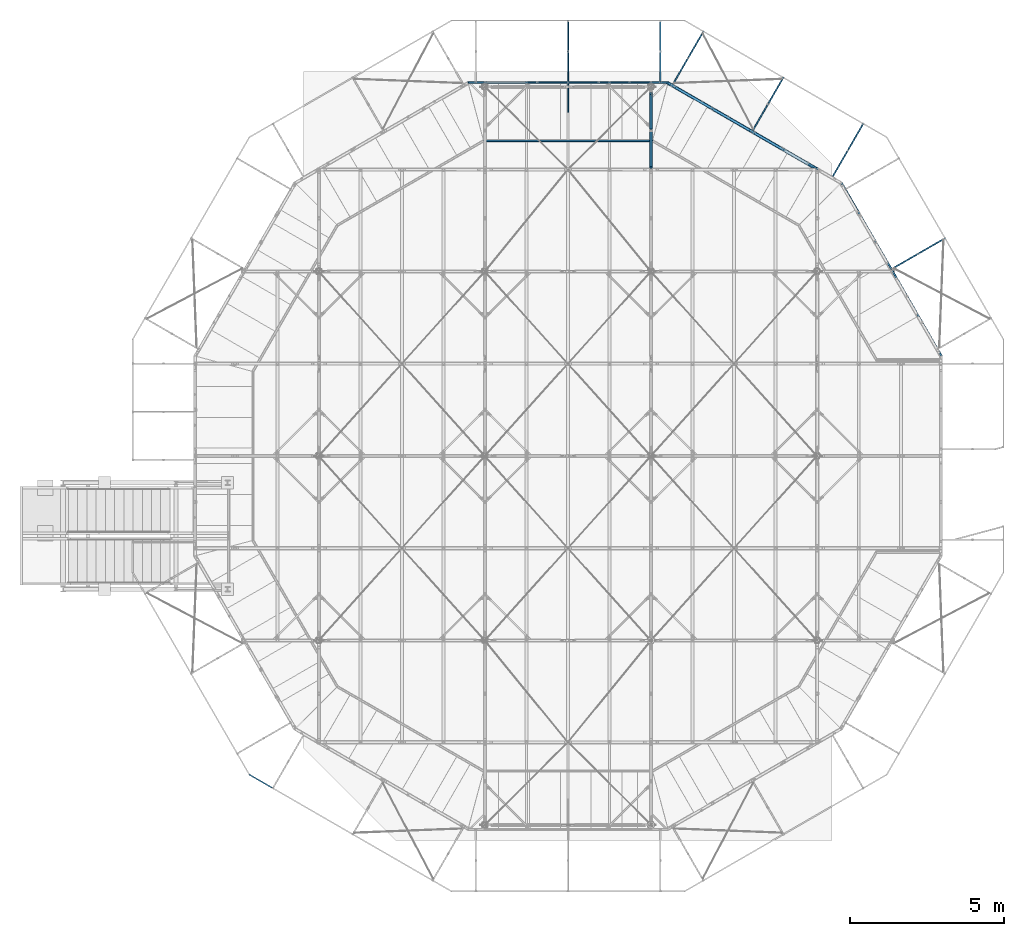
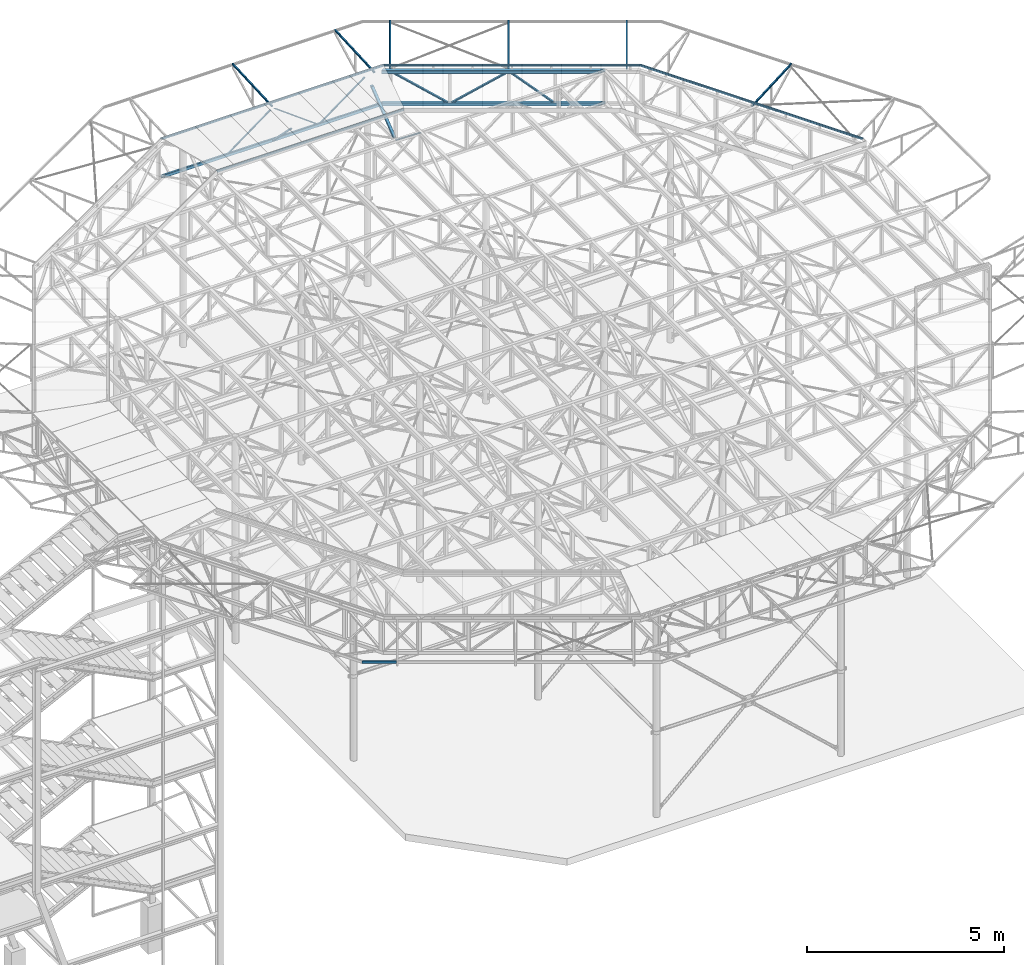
# One storey, part 60 of 132: 23 discrete accessories, 10 elements without a shape of their own.
"""IFC2X3 building model written with IfcOpenShell, lengths in millimetres."""

from ifc_helpers import new_model, si_unit, frame, origin_with_axes, origin_2d_with_axis, place, context, subcontext, project, spatial, hollow_rectangle, l_section, u_section, extrude, boolean, clip, halfspace, material, type_object, element, aggregate, save


model = new_model("IFC2X3")

# Units and contexts
model_context = context("Model", 3, precision=1e-05, world=origin_with_axes())
body_context = subcontext(model_context, "Body", "Model", "MODEL_VIEW")
ifc_project = project(units=[si_unit("LENGTHUNIT", "METRE", prefix="MILLI"), si_unit("AREAUNIT", "SQUARE_METRE"), si_unit("VOLUMEUNIT", "CUBIC_METRE"), si_unit("MASSUNIT", "GRAM", prefix="KILO"), si_unit("TIMEUNIT", "SECOND"), si_unit("PLANEANGLEUNIT", "RADIAN"), si_unit("SOLIDANGLEUNIT", "STERADIAN"), si_unit("THERMODYNAMICTEMPERATUREUNIT", "DEGREE_CELSIUS"), si_unit("LUMINOUSINTENSITYUNIT", "LUMEN")], contexts=[model_context])

# Site, building, storey
site_placement = place(None, origin_with_axes())
site = spatial("IfcSite", under=ifc_project, at=site_placement, Name="Budowa", CompositionType="ELEMENT")
building_placement = place(site_placement, origin_with_axes())
building = spatial("IfcBuilding", under=site, at=building_placement, Name="Undefined", CompositionType="ELEMENT")
storey_placement = place(building_placement, origin_with_axes())
storey = spatial("IfcBuildingStorey", under=building, at=storey_placement, Name="Undefined", CompositionType="ELEMENT", Elevation=0.0)

# Assembly, discrete accessories
assembly_1_placement = place(storey_placement, origin_with_axes())
assembly_1 = element("IfcElementAssembly", 1, at=assembly_1_placement, inside=storey, Name="Steel Assembly", AssemblyPlace="NOTDEFINED", PredefinedType="RIGID_FRAME")
ifc_material = material(Name="STEEL/S235")
discrete_accessory_type = type_object("IfcDiscreteAccessoryType", Name="BEAM")
discrete_accessory_1_placement = place(assembly_1_placement, frame((15386.9999997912, 24144.9671450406, 14004.0), z_axis=(0.0, -1.0, 0.0), x_axis=(-1.0, 0.0, 0.0)))
discrete_accessory_1 = element("IfcDiscreteAccessory", 2, at=discrete_accessory_1_placement, type_object=discrete_accessory_type, material=ifc_material, Name="BEAM", ObjectType="L60*40*6", context=body_context, shape_type="Clipping", body=[
    clip(clip(extrude(l_section(Depth=60.0, Width=40.0, Thickness=6.0, FilletRadius=6.0, EdgeRadius=3.0, at=origin_2d_with_axis()), frame((6532.08210864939, 0.0, 0.0), z_axis=(-1.0, 0.0, 0.0), x_axis=(0.0, -1.0, 0.0)), (0.0, 0.0, 1.0), 6540.16), halfspace(frame((6507.80785831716, 0.0, 30.0000000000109), z_axis=(-0.965930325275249, 0.0, -0.258802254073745), x_axis=(0.0, -1.0, 0.0)), True)), halfspace(frame((16.1916296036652, 0.0, 30.0), z_axis=(-0.965932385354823, 0.0, 0.258794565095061), x_axis=(0.0, -1.0, 0.0)), False)),
])
discrete_accessory_2_placement = place(assembly_1_placement, frame((21022.7207687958, 20886.8559733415, 14004.0), z_axis=(-0.499956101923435, -0.866050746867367, 0.0), x_axis=(-0.866050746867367, 0.499956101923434, 0.0)))
discrete_accessory_2 = element("IfcDiscreteAccessory", 3, at=discrete_accessory_2_placement, type_object=discrete_accessory_type, material=ifc_material, Name="BEAM", ObjectType="L60*40*6", context=body_context, shape_type="Clipping", body=[
    clip(clip(extrude(l_section(Depth=60.0, Width=40.0, Thickness=6.0, FilletRadius=6.0, EdgeRadius=3.0, at=origin_2d_with_axis()), frame((6569.27350745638, 0.0, 0.0), z_axis=(-1.0, 0.0, 0.0), x_axis=(0.0, -1.0, 0.0)), (0.0, 0.0, 1.0), 6613.59), halfspace(frame((6508.75683202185, 0.0, 30.0000000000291), z_axis=(-0.965932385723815, 0.0, -0.258794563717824), x_axis=(0.0, -1.0, 0.0)), True)), halfspace(frame((16.1990101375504, 0.0, 30.0000000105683), z_axis=(-0.965917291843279, 0.0, 0.258850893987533), x_axis=(0.0, -1.0, 0.0)), False)),
])
discrete_accessory_3_placement = place(assembly_1_placement, frame((24274.0193661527, 15247.0825774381, 14004.0), z_axis=(-0.866033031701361, -0.499986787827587, 0.0), x_axis=(-0.499986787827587, 0.866033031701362, 0.0)))
discrete_accessory_3 = element("IfcDiscreteAccessory", 4, at=discrete_accessory_3_placement, type_object=discrete_accessory_type, material=ifc_material, Name="BEAM", ObjectType="L60*40*6", context=body_context, shape_type="Clipping", body=[
    clip(clip(extrude(l_section(Depth=60.0, Width=40.0, Thickness=6.0, FilletRadius=6.0, EdgeRadius=3.0, at=origin_2d_with_axis()), frame((6569.3833111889, 3.63797880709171e-12, 0.0), z_axis=(-1.0, 0.0, 0.0), x_axis=(0.0, -1.0, 0.0)), (0.0, 0.0, 1.0), 6613.83), halfspace(frame((6508.86290101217, 3.63797880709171e-12, 30.0000000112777), z_axis=(-0.965917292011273, 0.0, -0.258850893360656), x_axis=(0.0, -1.0, 0.0)), True)), halfspace(frame((16.0764609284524, 3.63797880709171e-12, 29.9999999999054), z_axis=(-0.965927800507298, 0.0, 0.258811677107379), x_axis=(0.0, -1.0, 0.0)), False)),
])
discrete_accessory_4_placement = place(assembly_1_placement, frame((14862.905108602, 22243.0012210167, 13965.0), z_axis=(0.0, 1.0, 0.0), x_axis=(-1.0, 0.0, 0.0)))
discrete_accessory_4 = element("IfcDiscreteAccessory", 5, at=discrete_accessory_4_placement, type_object=discrete_accessory_type, material=ifc_material, Name="BEAM", ObjectType="L50*6", context=body_context, shape_type="Clipping", body=[
    clip(clip(extrude(l_section(Depth=50.0, Width=50.0, Thickness=6.0, FilletRadius=7.0, EdgeRadius=3.5, at=origin_2d_with_axis()), frame((5496.0396283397, 0.0, 0.0), z_axis=(-1.0, 0.0, 0.0), x_axis=(0.0, -1.0, 0.0)), (0.0, 0.0, 1.0), 5516.27), halfspace(frame((5475.80945900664, 0.0, -25.0), z_axis=(-0.965925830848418, 0.0, 0.258819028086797), x_axis=(0.0, 1.0, 0.0)), True)), halfspace(frame((3.51101334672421e-08, 0.0, -24.9999999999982), z_axis=(-0.965925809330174, 0.0, -0.258819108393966), x_axis=(0.0, 1.0, 0.0)), False)),
])
aggregate(assembly_1, [discrete_accessory_1, discrete_accessory_2, discrete_accessory_3, discrete_accessory_4])

# Assembly, discrete accessory
assembly_2_placement = place(storey_placement, origin_with_axes())
assembly_2 = element("IfcElementAssembly", 6, at=assembly_2_placement, inside=storey, Name="Steel Assembly", AssemblyPlace="NOTDEFINED", PredefinedType="RIGID_FRAME")
discrete_accessory_5_placement = place(assembly_2_placement, frame((12124.7999998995, 23212.3223305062, 13742.3223304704), z_axis=(-1.0, 0.0, 0.0), x_axis=(0.0, 0.707106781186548, -0.707106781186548)))
discrete_accessory_5 = element("IfcDiscreteAccessory", 7, at=discrete_accessory_5_placement, type_object=discrete_accessory_type, material=ifc_material, Name="BEAM", ObjectType="SHS50*5", context=body_context, shape_type="Clipping", body=[
    clip(clip(extrude(hollow_rectangle(XDim=50.0, YDim=50.0, WallThickness=5.0, InnerFilletRadius=5.0, OuterFilletRadius=10.0, at=origin_2d_with_axis()), frame((1327.07900269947, -3.63797880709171e-12, 0.0), z_axis=(-1.0, 0.0, 0.0), x_axis=(0.0, -1.0, 0.0)), (0.0, 0.0, 1.0), 1402.58), halfspace(frame((1248.0434687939, -28.5355339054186, 196.150089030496), z_axis=(0.707106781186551, -0.707106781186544, 0.0), x_axis=(0.707106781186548, 0.707106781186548, 0.0)), False)), halfspace(frame((-67.426406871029, 42.4264068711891, 1000.0), z_axis=(0.707106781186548, 0.707106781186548, 0.0), x_axis=(-0.707106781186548, 0.707106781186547, 0.0)), True)),
])
aggregate(assembly_2, [discrete_accessory_5])

assembly_3_placement = place(storey_placement, origin_with_axes())
assembly_3 = element("IfcElementAssembly", 8, at=assembly_3_placement, inside=storey, Name="Steel Assembly", AssemblyPlace="NOTDEFINED", PredefinedType="RIGID_FRAME")
discrete_accessory_6_placement = place(assembly_3_placement, frame((1682.6905521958, 1683.94365952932, 13945.0050192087), z_axis=(0.0, 0.0, -1.0), x_axis=(0.866042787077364, -0.499969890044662, 0.0)))
discrete_accessory_6 = element("IfcDiscreteAccessory", 9, at=discrete_accessory_6_placement, type_object=discrete_accessory_type, material=ifc_material, Name="BEAM", ObjectType="C70*40*4", context=body_context, shape_type="Clipping", body=[
    clip(extrude(u_section(Depth=70.0, FlangeWidth=40.0, WebThickness=4.0, FlangeThickness=4.0, FilletRadius=6.0, at=origin_2d_with_axis()), frame((950.000000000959, 1.82248795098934e-14, 0.0), z_axis=(-1.0, 0.0, 0.0), x_axis=(0.0, -1.0, 0.0)), (0.0, 0.0, 1.0), 895.39), halfspace(frame((86.9462005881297, 20.0006923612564, -0.000395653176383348), z_axis=(-0.965920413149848, -0.258839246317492, 5.120602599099e-06), x_axis=(3.20991830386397e-10, 1.97817472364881e-05, 0.999999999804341)), False)),
])
aggregate(assembly_3, [discrete_accessory_6])

assembly_4_placement = place(storey_placement, origin_with_axes())
assembly_4 = element("IfcElementAssembly", 10, at=assembly_4_placement, inside=storey, Name="Steel Assembly", AssemblyPlace="NOTDEFINED", PredefinedType="RIGID_FRAME")
discrete_accessory_7_placement = place(assembly_4_placement, frame((22669.1585802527, 18089.3855184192, 13855.0311915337), z_axis=(-0.499969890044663, 0.866042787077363, 0.0), x_axis=(0.864962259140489, 0.499346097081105, 0.0499376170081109)))
discrete_accessory_7 = element("IfcDiscreteAccessory", 11, at=discrete_accessory_7_placement, type_object=discrete_accessory_type, material=ifc_material, Name="BEAM", ObjectType="SHS50*4", context=body_context, shape_type="Clipping", body=[
    clip(clip(extrude(hollow_rectangle(XDim=50.0, YDim=50.0, WallThickness=4.0, InnerFilletRadius=4.0, OuterFilletRadius=8.0, at=origin_2d_with_axis()), frame((2047.80222226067, -1.81898940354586e-12, -1.00153404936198e-12), z_axis=(-1.0, 0.0, 0.0), x_axis=(0.0, -1.0, 0.0)), (0.0, 0.0, 1.0), 2120.54), halfspace(frame((2002.5989463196, -25.0000000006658, -7.85761585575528e-07), z_axis=(-0.689225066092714, -0.724547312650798, 2.88487317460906e-10), x_axis=(0.0, 0.0, -1.0)), True)), halfspace(frame((-1.23691279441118e-08, -25.0000000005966, 73.1665326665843), z_axis=(-0.998752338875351, -0.0499376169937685, 0.0), x_axis=(0.0, 0.0, -1.0)), False)),
])
aggregate(assembly_4, [discrete_accessory_7])

assembly_5_placement = place(storey_placement, origin_with_axes())
assembly_5 = element("IfcElementAssembly", 12, at=assembly_5_placement, inside=storey, Name="Steel Assembly", AssemblyPlace="NOTDEFINED", PredefinedType="RIGID_FRAME")
discrete_accessory_8_placement = place(assembly_5_placement, frame((20733.5513428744, 21089.7565331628, 13855.0311915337), z_axis=(0.866042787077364, -0.499969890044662, 0.0), x_axis=(0.499346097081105, 0.86496225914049, 0.0499376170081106)))
discrete_accessory_8 = element("IfcDiscreteAccessory", 13, at=discrete_accessory_8_placement, type_object=discrete_accessory_type, material=ifc_material, Name="BEAM", ObjectType="SHS50*4", context=body_context, shape_type="Clipping", body=[
    clip(clip(extrude(hollow_rectangle(XDim=50.0, YDim=50.0, WallThickness=4.0, InnerFilletRadius=4.0, OuterFilletRadius=8.0, at=origin_2d_with_axis()), frame((2047.80222226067, -1.81898940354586e-12, -1.00153404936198e-12), z_axis=(-1.0, 0.0, 0.0), x_axis=(0.0, -1.0, 0.0)), (0.0, 0.0, 1.0), 2120.54), halfspace(frame((2002.59894631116, 25.0000000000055, -2.91038304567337e-11), z_axis=(-0.689225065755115, 0.724547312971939, 0.0), x_axis=(0.0, 0.0, 1.0)), True)), halfspace(frame((-1.21290213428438e-08, 25.0000000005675, 73.1665326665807), z_axis=(-0.998752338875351, 0.0499376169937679, 0.0), x_axis=(-0.0499376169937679, -0.998752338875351, 0.0)), False)),
])
aggregate(assembly_5, [discrete_accessory_8])

assembly_6_placement = place(storey_placement, origin_with_axes())
assembly_6 = element("IfcElementAssembly", 14, at=assembly_6_placement, inside=storey, Name="Steel Assembly", AssemblyPlace="NOTDEFINED", PredefinedType="RIGID_FRAME")
discrete_accessory_9_placement = place(assembly_6_placement, frame((15537.2946203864, 24089.5758734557, 13855.0311915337), z_axis=(0.866042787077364, -0.499969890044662, 0.0), x_axis=(0.499346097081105, 0.86496225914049, 0.0499376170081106)))
discrete_accessory_9 = element("IfcDiscreteAccessory", 15, at=discrete_accessory_9_placement, type_object=discrete_accessory_type, material=ifc_material, Name="BEAM", ObjectType="SHS50*4", context=body_context, shape_type="Clipping", body=[
    clip(clip(extrude(hollow_rectangle(XDim=50.0, YDim=50.0, WallThickness=4.0, InnerFilletRadius=4.0, OuterFilletRadius=8.0, at=origin_2d_with_axis()), frame((2047.80222226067, -1.81898940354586e-12, -1.00153404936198e-12), z_axis=(-1.0, 0.0, 0.0), x_axis=(0.0, -1.0, 0.0)), (0.0, 0.0, 1.0), 2120.54), halfspace(frame((2002.59894631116, 25.0000000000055, -2.91038304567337e-11), z_axis=(-0.689225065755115, 0.724547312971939, 0.0), x_axis=(0.0, 0.0, 1.0)), True)), halfspace(frame((-1.21290213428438e-08, 25.0000000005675, 73.1665326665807), z_axis=(-0.998752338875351, 0.0499376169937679, 0.0), x_axis=(-0.0499376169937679, -0.998752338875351, 0.0)), False)),
])
aggregate(assembly_6, [discrete_accessory_9])

assembly_7_placement = place(storey_placement, origin_with_axes())
assembly_7 = element("IfcElementAssembly", 16, at=assembly_7_placement, inside=storey, Name="Steel Assembly", AssemblyPlace="NOTDEFINED", PredefinedType="RIGID_FRAME")
discrete_accessory_10_placement = place(assembly_7_placement, frame((18135.4229816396, 22589.6662032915, 13855.0311915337), z_axis=(0.866042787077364, -0.499969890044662, 0.0), x_axis=(0.499346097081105, 0.86496225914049, 0.0499376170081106)))
discrete_accessory_10 = element("IfcDiscreteAccessory", 17, at=discrete_accessory_10_placement, type_object=discrete_accessory_type, material=ifc_material, Name="BEAM", ObjectType="SHS50*4", context=body_context, shape_type="Clipping", body=[
    clip(clip(extrude(hollow_rectangle(XDim=50.0, YDim=50.0, WallThickness=4.0, InnerFilletRadius=4.0, OuterFilletRadius=8.0, at=origin_2d_with_axis()), frame((2047.80222226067, -1.81898940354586e-12, -1.00153404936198e-12), z_axis=(-1.0, 0.0, 0.0), x_axis=(0.0, -1.0, 0.0)), (0.0, 0.0, 1.0), 2120.54), halfspace(frame((2002.59894631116, 25.0000000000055, -2.91038304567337e-11), z_axis=(-0.689225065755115, 0.724547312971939, 0.0), x_axis=(0.0, 0.0, 1.0)), True)), halfspace(frame((-1.21290213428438e-08, 25.0000000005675, 73.1665326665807), z_axis=(-0.998752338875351, 0.0499376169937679, 0.0), x_axis=(-0.0499376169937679, -0.998752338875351, 0.0)), False)),
])
aggregate(assembly_7, [discrete_accessory_10])

assembly_8_placement = place(storey_placement, origin_with_axes())
assembly_8 = element("IfcElementAssembly", 18, at=assembly_8_placement, inside=storey, Name="Steel Assembly", AssemblyPlace="NOTDEFINED", PredefinedType="RIGID_FRAME")
discrete_accessory_11_placement = place(assembly_8_placement, frame((15124.9999999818, 24176.1484404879, 13855.0311915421), z_axis=(1.0, 0.0, 0.0), x_axis=(0.0, 0.998752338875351, 0.0499376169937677)))
discrete_accessory_11 = element("IfcDiscreteAccessory", 19, at=discrete_accessory_11_placement, type_object=discrete_accessory_type, material=ifc_material, Name="BEAM", ObjectType="SHS50*4", context=body_context, shape_type="Clipping", body=[
    clip(clip(extrude(hollow_rectangle(XDim=50.0, YDim=50.0, WallThickness=4.0, InnerFilletRadius=4.0, OuterFilletRadius=8.0, at=origin_2d_with_axis()), frame((2004.12425861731, -3.63797880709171e-12, 0.0), z_axis=(-1.0, 0.0, 0.0), x_axis=(0.0, -1.0, 0.0)), (0.0, 0.0, 1.0), 2033.18), halfspace(frame((2002.59894631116, 25.0000000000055, -2.91038304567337e-11), z_axis=(-0.689225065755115, 0.724547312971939, 0.0), x_axis=(0.0, 0.0, 1.0)), True)), halfspace(frame((-1.21290213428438e-08, 25.0000000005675, 73.1665326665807), z_axis=(-0.998752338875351, 0.0499376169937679, 0.0), x_axis=(-0.0499376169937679, -0.998752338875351, 0.0)), False)),
])
aggregate(assembly_8, [discrete_accessory_11])

assembly_9_placement = place(storey_placement, origin_with_axes())
assembly_9 = element("IfcElementAssembly", 20, at=assembly_9_placement, inside=storey, Name="Steel Assembly", AssemblyPlace="NOTDEFINED", PredefinedType="RIGID_FRAME")
discrete_accessory_12_placement = place(assembly_9_placement, frame((12124.9999999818, 24176.1484404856, 13855.0311915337), z_axis=(1.0, 0.0, 0.0), x_axis=(0.0, 0.998752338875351, 0.0499376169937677)))
discrete_accessory_12 = element("IfcDiscreteAccessory", 21, at=discrete_accessory_12_placement, type_object=discrete_accessory_type, material=ifc_material, Name="BEAM", ObjectType="SHS50*4", context=body_context, shape_type="Clipping", body=[
    clip(clip(extrude(hollow_rectangle(XDim=50.0, YDim=50.0, WallThickness=4.0, InnerFilletRadius=4.0, OuterFilletRadius=8.0, at=origin_2d_with_axis()), frame((2004.12425861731, -3.63797880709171e-12, 0.0), z_axis=(-1.0, 0.0, 0.0), x_axis=(0.0, -1.0, 0.0)), (0.0, 0.0, 1.0), 2033.18), halfspace(frame((2002.59894631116, 25.0000000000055, -2.91038304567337e-11), z_axis=(-0.689225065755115, 0.724547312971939, 0.0), x_axis=(0.0, 0.0, 1.0)), True)), halfspace(frame((-1.21290213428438e-08, 25.0000000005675, 73.1665326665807), z_axis=(-0.998752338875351, 0.0499376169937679, 0.0), x_axis=(-0.0499376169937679, -0.998752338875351, 0.0)), False)),
])
aggregate(assembly_9, [discrete_accessory_12])

# Assembly, discrete accessories
assembly_10_placement = place(storey_placement, origin_with_axes())
assembly_10 = element("IfcElementAssembly", 22, at=assembly_10_placement, inside=storey, Name="Steel Assembly", AssemblyPlace="NOTDEFINED", PredefinedType="RIGID_FRAME")
discrete_accessory_13_placement = place(assembly_10_placement, frame((18120.1928179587, 22539.2832223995, 13830.0000000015), z_axis=(0.499969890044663, 0.866042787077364, 0.0), x_axis=(0.660231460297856, -0.381154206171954, -0.64715986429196)))
solid_1 = boolean("DIFFERENCE", boolean("DIFFERENCE", extrude(hollow_rectangle(XDim=90.0, YDim=90.0, WallThickness=4.0, InnerFilletRadius=4.0, OuterFilletRadius=8.0, at=origin_2d_with_axis()), frame((32.3579932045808, 38.1177160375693, 1.45106249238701e-08), z_axis=(0.64715986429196, 0.762354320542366, 2.65512223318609e-10), x_axis=(-0.762354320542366, 0.647159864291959, -3.12772752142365e-10)), (0.0, 0.0, 1.0), 900.0), halfspace(frame((32.357992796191, 38.1177160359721, 1000.00000001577), z_axis=(0.64715986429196, 0.762354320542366, 2.65512223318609e-10), x_axis=(-0.762354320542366, 0.647159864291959, -3.12772752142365e-10)), True)), halfspace(frame((614.801870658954, 724.236604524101, 1000.00000025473), z_axis=(-0.647159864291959, -0.762354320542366, -2.655122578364e-10), x_axis=(0.762354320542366, -0.647159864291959, 3.12773408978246e-10)), True))
solid_2 = boolean("DIFFERENCE", boolean("DIFFERENCE", extrude(hollow_rectangle(XDim=90.0, YDim=90.0, WallThickness=4.0, InnerFilletRadius=4.0, OuterFilletRadius=8.0, at=origin_2d_with_axis()), frame((930.41138280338, -724.236604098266, 3.85326166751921e-07), z_axis=(0.64715986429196, 0.762354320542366, 2.65512223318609e-10), x_axis=(-0.762354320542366, 0.647159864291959, -3.12772752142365e-10)), (0.0, 0.0, 1.0), 900.0), halfspace(frame((930.411382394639, -724.236604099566, 1000.00000038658), z_axis=(0.64715986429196, 0.762354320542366, 2.65512223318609e-10), x_axis=(-0.762354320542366, 0.647159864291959, -3.12772752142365e-10)), True)), halfspace(frame((1512.8552602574, -38.1177156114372, 1000.00000062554), z_axis=(-0.647159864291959, -0.762354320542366, -2.655122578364e-10), x_axis=(0.762354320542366, -0.647159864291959, 3.12773408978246e-10)), True))
discrete_accessory_13 = element("IfcDiscreteAccessory", 23, at=discrete_accessory_13_placement, type_object=discrete_accessory_type, material=ifc_material, Name="BEAM", ObjectType="RHS80*40*4", context=body_context, shape_type="CSG", body=[
    boolean("DIFFERENCE", boolean("DIFFERENCE", boolean("DIFFERENCE", boolean("DIFFERENCE", extrude(hollow_rectangle(XDim=40.0, YDim=80.0, WallThickness=4.0, InnerFilletRadius=4.0, OuterFilletRadius=8.0, at=origin_2d_with_axis()), frame((1542.70146532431, -8.56371343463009e-14, -4.63483066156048e-14), z_axis=(-1.0, 0.0, 0.0), x_axis=(0.0, -1.0, 0.0)), (0.0, 0.0, 1.0), 1540.19), solid_1), solid_2), halfspace(frame((1512.8552602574, -38.1177156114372, 1000.00000062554), z_axis=(-0.647159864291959, -0.762354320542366, -2.655122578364e-10), x_axis=(0.762354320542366, -0.647159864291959, 3.12773408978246e-10)), True)), halfspace(frame((32.357992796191, 38.1177160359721, 1000.00000001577), z_axis=(0.64715986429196, 0.762354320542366, 2.65512223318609e-10), x_axis=(-0.762354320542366, 0.647159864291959, -3.12772752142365e-10)), True)),
])
discrete_accessory_14_placement = place(assembly_10_placement, frame((18120.0832816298, 22539.3464581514, 13830.0000000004), z_axis=(0.499969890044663, 0.866042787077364, 0.0), x_axis=(-0.720591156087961, 0.41600009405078, -0.554700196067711)))
solid_3 = boolean("DIFFERENCE", boolean("DIFFERENCE", extrude(hollow_rectangle(XDim=90.0, YDim=90.0, WallThickness=4.0, InnerFilletRadius=4.0, OuterFilletRadius=8.0, at=origin_2d_with_axis()), frame((1275.70521449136, 790.377621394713, 2.53192300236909e-07), z_axis=(0.554700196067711, -0.832050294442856, 1.11090858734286e-10), x_axis=(0.832050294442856, 0.554700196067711, 1.66635594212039e-10)), (0.0, 0.0, 1.0), 900.0), halfspace(frame((1275.70521428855, 790.377621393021, 1000.00000025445), z_axis=(0.554700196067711, -0.832050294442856, 1.11090858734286e-10), x_axis=(0.832050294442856, 0.554700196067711, 1.66635594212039e-10)), True)), halfspace(frame((1774.93539074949, 41.5323563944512, 1000.00000035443), z_axis=(-0.554700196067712, 0.832050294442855, -1.1109021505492e-10), x_axis=(-0.832050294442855, -0.554700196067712, -1.66634890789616e-10)), True))
solid_4 = boolean("DIFFERENCE", boolean("DIFFERENCE", extrude(hollow_rectangle(XDim=90.0, YDim=90.0, WallThickness=4.0, InnerFilletRadius=4.0, OuterFilletRadius=8.0, at=origin_2d_with_axis()), frame((27.6297728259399, -41.6726727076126, 6.27176466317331e-09), z_axis=(0.554700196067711, -0.832050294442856, 1.11090858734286e-10), x_axis=(0.832050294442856, 0.554700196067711, 1.66635594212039e-10)), (0.0, 0.0, 1.0), 900.0), halfspace(frame((27.6297726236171, -41.6726727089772, 1000.00000000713), z_axis=(0.554700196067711, -0.832050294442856, 1.11090858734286e-10), x_axis=(0.832050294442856, 0.554700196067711, 1.66635594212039e-10)), True)), halfspace(frame((526.859949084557, -790.517937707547, 1000.00000010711), z_axis=(-0.554700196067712, 0.832050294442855, -1.1109021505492e-10), x_axis=(-0.832050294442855, -0.554700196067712, -1.66634890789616e-10)), True))
discrete_accessory_14 = element("IfcDiscreteAccessory", 24, at=discrete_accessory_14_placement, type_object=discrete_accessory_type, material=ifc_material, Name="BEAM", ObjectType="RHS80*40*4", context=body_context, shape_type="CSG", body=[
    boolean("DIFFERENCE", boolean("DIFFERENCE", boolean("DIFFERENCE", boolean("DIFFERENCE", extrude(hollow_rectangle(XDim=40.0, YDim=80.0, WallThickness=4.0, InnerFilletRadius=4.0, OuterFilletRadius=8.0, at=origin_2d_with_axis()), frame((1821.2793628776, 0.0, -8.6431479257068e-13), z_axis=(-1.0, 0.0, 0.0), x_axis=(0.0, -1.0, 0.0)), (0.0, 0.0, 1.0), 1839.78), solid_3), solid_4), halfspace(frame((1775.04062824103, 41.6025147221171, 999.999999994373), z_axis=(-0.554700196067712, 0.832050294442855, -1.1109021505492e-10), x_axis=(-0.832050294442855, -0.554700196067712, -1.66634890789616e-10)), True)), halfspace(frame((27.7350096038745, -41.6025147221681, 1000.00000000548), z_axis=(0.554700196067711, -0.832050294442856, 1.11090858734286e-10), x_axis=(0.832050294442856, 0.554700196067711, 1.66635594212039e-10)), True)),
])
discrete_accessory_15_placement = place(assembly_10_placement, frame((15522.0644567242, 24039.1928925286, 13830.0000000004), z_axis=(0.499969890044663, 0.866042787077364, 0.0), x_axis=(0.720591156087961, -0.41600009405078, -0.554700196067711)))
solid_5 = boolean("DIFFERENCE", boolean("DIFFERENCE", extrude(hollow_rectangle(XDim=90.0, YDim=90.0, WallThickness=4.0, InnerFilletRadius=4.0, OuterFilletRadius=8.0, at=origin_2d_with_axis()), frame((27.7350097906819, 41.6025147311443, -4.89933715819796e-09), z_axis=(0.554700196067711, 0.832050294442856, -1.11090858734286e-10), x_axis=(-0.832050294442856, 0.554700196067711, 1.66634595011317e-10)), (0.0, 0.0, 1.0), 900.0), halfspace(frame((27.7350099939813, 41.6025147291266, 999.999999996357), z_axis=(0.554700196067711, 0.832050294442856, -1.11090858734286e-10), x_axis=(-0.832050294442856, 0.554700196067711, 1.66634595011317e-10)), True)), halfspace(frame((526.965186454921, 790.447779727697, 999.999999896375), z_axis=(-0.554700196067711, -0.832050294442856, 1.11091980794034e-10), x_axis=(0.832050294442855, -0.554700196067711, -1.66634436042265e-10)), True))
solid_6 = boolean("DIFFERENCE", boolean("DIFFERENCE", extrude(hollow_rectangle(XDim=90.0, YDim=90.0, WallThickness=4.0, InnerFilletRadius=4.0, OuterFilletRadius=8.0, at=origin_2d_with_axis()), frame((1275.81045145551, -790.447779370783, -2.51850795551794e-07), z_axis=(0.554700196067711, 0.832050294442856, -1.11090858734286e-10), x_axis=(-0.832050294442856, 0.554700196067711, 1.66634595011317e-10)), (0.0, 0.0, 1.0), 900.0), halfspace(frame((1275.81045165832, -790.447779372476, 999.999999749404), z_axis=(0.554700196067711, 0.832050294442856, -1.11090858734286e-10), x_axis=(-0.832050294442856, 0.554700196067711, 1.66634595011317e-10)), True)), halfspace(frame((1775.04062811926, -41.6025143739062, 999.999999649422), z_axis=(-0.554700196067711, -0.832050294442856, 1.11091980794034e-10), x_axis=(0.832050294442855, -0.554700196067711, -1.66634436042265e-10)), True))
discrete_accessory_15 = element("IfcDiscreteAccessory", 25, at=discrete_accessory_15_placement, type_object=discrete_accessory_type, material=ifc_material, Name="BEAM", ObjectType="RHS80*40*4", context=body_context, shape_type="CSG", body=[
    boolean("DIFFERENCE", boolean("DIFFERENCE", boolean("DIFFERENCE", boolean("DIFFERENCE", extrude(hollow_rectangle(XDim=40.0, YDim=80.0, WallThickness=4.0, InnerFilletRadius=4.0, OuterFilletRadius=8.0, at=origin_2d_with_axis()), frame((1821.2793628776, 0.0, -8.6431479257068e-13), z_axis=(-1.0, 0.0, 0.0), x_axis=(0.0, -1.0, 0.0)), (0.0, 0.0, 1.0), 1839.78), solid_5), solid_6), halfspace(frame((1775.04062811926, -41.6025143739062, 999.999999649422), z_axis=(-0.554700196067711, -0.832050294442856, 1.11091980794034e-10), x_axis=(0.832050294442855, -0.554700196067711, -1.66634436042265e-10)), True)), halfspace(frame((27.7350099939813, 41.6025147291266, 999.999999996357), z_axis=(0.554700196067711, 0.832050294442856, -1.11090858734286e-10), x_axis=(-0.832050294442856, 0.554700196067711, 1.66634595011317e-10)), True)),
])
discrete_accessory_16_placement = place(assembly_10_placement, frame((15362.0015054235, 24131.597860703, 12830.0), z_axis=(0.0, 0.0, 1.0), x_axis=(0.866042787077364, -0.499969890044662, 0.0)))
discrete_accessory_16 = element("IfcDiscreteAccessory", 26, at=discrete_accessory_16_placement, type_object=discrete_accessory_type, material=ifc_material, Name="BEAM", ObjectType="SHS100*5", context=body_context, shape_type="Clipping", body=[
    clip(clip(extrude(hollow_rectangle(XDim=100.0, YDim=100.0, WallThickness=5.0, InnerFilletRadius=5.0, OuterFilletRadius=10.0, at=origin_2d_with_axis()), frame((5640.58238679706, 0.0, 1.81898940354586e-12), z_axis=(-1.0, 0.0, 0.0), x_axis=(0.0, -1.0, 0.0)), (0.0, 0.0, 1.0), 5811.83), halfspace(frame((5456.92005784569, -50.0000000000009, -49.9999999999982), z_axis=(0.499969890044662, -0.866042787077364, 0.0), x_axis=(0.0, 0.0, 1.0)), False)), halfspace(frame((9.24046617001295e-09, 50.0000000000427, 1.81898940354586e-12), z_axis=(-0.882798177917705, 0.469752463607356, 0.0), x_axis=(0.0, 0.0, 1.0)), False)),
])
discrete_accessory_17_placement = place(assembly_10_placement, frame((15362.0015054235, 24131.597860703, 13830.0), z_axis=(0.0, 0.0, 1.0), x_axis=(0.866042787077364, -0.499969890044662, 0.0)))
discrete_accessory_17 = element("IfcDiscreteAccessory", 27, at=discrete_accessory_17_placement, type_object=discrete_accessory_type, material=ifc_material, Name="BEAM", ObjectType="SHS100*5", context=body_context, shape_type="Clipping", body=[
    clip(clip(extrude(hollow_rectangle(XDim=100.0, YDim=100.0, WallThickness=5.0, InnerFilletRadius=5.0, OuterFilletRadius=10.0, at=origin_2d_with_axis()), frame((5640.58238679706, 0.0, 1.81898940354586e-12), z_axis=(-1.0, 0.0, 0.0), x_axis=(0.0, -1.0, 0.0)), (0.0, 0.0, 1.0), 5811.83), halfspace(frame((5456.92005784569, -50.0000000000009, -49.9999999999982), z_axis=(0.499969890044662, -0.866042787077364, 0.0), x_axis=(0.0, 0.0, 1.0)), False)), halfspace(frame((9.24046617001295e-09, 50.0000000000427, 1.81898940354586e-12), z_axis=(-0.882798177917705, 0.469752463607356, 0.0), x_axis=(0.0, 0.0, 1.0)), False)),
])
discrete_accessory_18_placement = place(assembly_10_placement, frame((13474.9999999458, 24144.9000000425, 12829.9999999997), z_axis=(0.0, -1.0, 0.0), x_axis=(0.803557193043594, 0.0, 0.595227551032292)))
discrete_accessory_18 = element("IfcDiscreteAccessory", 28, at=discrete_accessory_18_placement, type_object=discrete_accessory_type, material=ifc_material, Name="BEAM", ObjectType="RHS50*30*5", context=body_context, shape_type="Clipping", body=[
    clip(extrude(hollow_rectangle(XDim=30.0, YDim=50.0, WallThickness=5.0, InnerFilletRadius=5.0, OuterFilletRadius=10.0, at=origin_2d_with_axis()), frame((1680.02976165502, 0.0, 0.0), z_axis=(-1.0, 0.0, 0.0), x_axis=(0.0, -1.0, 0.0)), (0.0, 0.0, 1.0), 1630.97), halfspace(frame((29.7613775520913, 40.1778596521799, 1000.0), z_axis=(0.595227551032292, 0.803557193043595, 0.0), x_axis=(-0.803557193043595, 0.595227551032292, 0.0)), True)),
])
discrete_accessory_19_placement = place(assembly_10_placement, frame((12124.9999999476, 24144.9000000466, 13830.0000000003), z_axis=(0.0, -1.0, 0.0), x_axis=(0.803557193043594, 0.0, -0.595227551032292)))
discrete_accessory_19 = element("IfcDiscreteAccessory", 29, at=discrete_accessory_19_placement, type_object=discrete_accessory_type, material=ifc_material, Name="BEAM", ObjectType="RHS50*30*5", context=body_context, shape_type="Clipping", body=[
    clip(clip(extrude(hollow_rectangle(XDim=30.0, YDim=50.0, WallThickness=5.0, InnerFilletRadius=5.0, OuterFilletRadius=10.0, at=origin_2d_with_axis()), frame((1636.93327242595, -3.63797880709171e-12, 3.63797880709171e-12), z_axis=(-1.0, 0.0, 0.0), x_axis=(0.0, -1.0, 0.0)), (0.0, 0.0, 1.0), 1593.84), halfspace(frame((1650.2683829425, 40.1778596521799, 1000.0), z_axis=(-0.595227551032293, 0.803557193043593, 0.0), x_axis=(-0.803557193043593, -0.595227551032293, 0.0)), True)), halfspace(frame((29.7613775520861, -40.1778596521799, 1000.0), z_axis=(0.595227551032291, -0.803557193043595, 0.0), x_axis=(0.803557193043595, 0.595227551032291, 0.0)), True)),
])
discrete_accessory_20_placement = place(assembly_10_placement, frame((10774.999999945, 24144.9000000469, 12829.9999999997), z_axis=(0.0, -1.0, 0.0), x_axis=(0.803557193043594, 0.0, 0.595227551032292)))
discrete_accessory_20 = element("IfcDiscreteAccessory", 30, at=discrete_accessory_20_placement, type_object=discrete_accessory_type, material=ifc_material, Name="BEAM", ObjectType="RHS50*30*5", context=body_context, shape_type="Clipping", body=[
    clip(clip(extrude(hollow_rectangle(XDim=30.0, YDim=50.0, WallThickness=5.0, InnerFilletRadius=5.0, OuterFilletRadius=10.0, at=origin_2d_with_axis()), frame((1636.93327242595, -3.63797880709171e-12, 3.63797880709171e-12), z_axis=(-1.0, 0.0, 0.0), x_axis=(0.0, -1.0, 0.0)), (0.0, 0.0, 1.0), 1593.84), halfspace(frame((1650.2683829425, -40.1778596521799, 1000.0), z_axis=(-0.595227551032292, -0.803557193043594, 0.0), x_axis=(0.803557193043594, -0.595227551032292, 0.0)), True)), halfspace(frame((29.7613775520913, 40.1778596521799, 1000.0), z_axis=(0.595227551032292, 0.803557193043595, 0.0), x_axis=(-0.803557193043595, 0.595227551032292, 0.0)), True)),
])
discrete_accessory_21_placement = place(assembly_10_placement, frame((8861.99999994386, 24144.9000000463, 12830.0), z_axis=(0.0, 0.0, 1.0), x_axis=(1.0, 0.0, 0.0)))
discrete_accessory_21 = element("IfcDiscreteAccessory", 31, at=discrete_accessory_21_placement, type_object=discrete_accessory_type, material=ifc_material, Name="BEAM", ObjectType="RHS100*60*6", context=body_context, shape_type="Clipping", body=[
    clip(clip(extrude(hollow_rectangle(XDim=60.0, YDim=100.0, WallThickness=6.0, InnerFilletRadius=6.0, OuterFilletRadius=12.0, at=origin_2d_with_axis()), frame((6574.00113225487, 0.0, 0.0), z_axis=(-1.0, 0.0, 0.0), x_axis=(0.0, -1.0, 0.0)), (0.0, 0.0, 1.0), 6622.0), halfspace(frame((6524.99999999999, 30.0000000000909, 0.0), z_axis=(-0.529678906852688, 0.848198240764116, 0.0), x_axis=(0.0, 0.0, 1.0)), True)), halfspace(frame((97.0806515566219, -30.0000000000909, 0.0), z_axis=(0.529678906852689, 0.848198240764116, 0.0), x_axis=(0.0, 0.0, 1.0)), True)),
])
discrete_accessory_22_placement = place(assembly_10_placement, frame((14824.9999999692, 23850.038635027, 13830.0000000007), z_axis=(1.0, 0.0, 0.0), x_axis=(0.0, -0.785673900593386, -0.618640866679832)))
solid_7 = boolean("DIFFERENCE", boolean("DIFFERENCE", extrude(hollow_rectangle(XDim=90.0, YDim=90.0, WallThickness=6.0, InnerFilletRadius=6.0, OuterFilletRadius=12.0, at=origin_2d_with_axis()), frame((1028.76825158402, -746.414106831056, -1.21326593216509e-09), z_axis=(0.618640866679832, 0.785673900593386, 0.0), x_axis=(0.785673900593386, -0.618640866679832, 0.0)), (0.0, 0.0, 1.0), 900.0), halfspace(frame((1028.76825158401, -746.414106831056, -1000.00000000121), z_axis=(0.618640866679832, 0.785673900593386, 0.0), x_axis=(0.0, 0.0, 1.0)), True)), halfspace(frame((1585.54503159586, -39.3075962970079, -1000.00000000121), z_axis=(-0.618640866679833, -0.785673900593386, 0.0), x_axis=(0.0, 0.0, 1.0)), True))
discrete_accessory_22 = element("IfcDiscreteAccessory", 32, at=discrete_accessory_22_placement, type_object=discrete_accessory_type, material=ifc_material, Name="BEAM", ObjectType="RHS90*50*5", context=body_context, shape_type="CSG", body=[
    boolean("DIFFERENCE", boolean("DIFFERENCE", boolean("DIFFERENCE", extrude(hollow_rectangle(XDim=50.0, YDim=90.0, WallThickness=5.0, InnerFilletRadius=7.5, OuterFilletRadius=12.5, at=origin_2d_with_axis()), frame((1582.4028592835, 8.21653697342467e-13, 0.0), z_axis=(-1.0, 0.0, 0.0), x_axis=(0.0, -1.0, 0.0)), (0.0, 0.0, 1.0), 1548.36), solid_7), halfspace(frame((1585.51467698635, -39.2836950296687, 1000.0), z_axis=(-0.618640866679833, -0.785673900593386, 0.0), x_axis=(0.785673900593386, -0.618640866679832, 0.0)), True)), halfspace(frame((30.9320433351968, 39.2836950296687, 1000.0), z_axis=(0.618640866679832, 0.785673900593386, 0.0), x_axis=(-0.785673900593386, 0.618640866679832, 0.0)), True)),
])
discrete_accessory_23_placement = place(assembly_10_placement, frame((14824.9999999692, 21310.0000000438, 13830.0000000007), z_axis=(1.0, 0.0, 0.0), x_axis=(0.0, 0.785673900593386, -0.618640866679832)))
solid_8 = boolean("DIFFERENCE", boolean("DIFFERENCE", extrude(hollow_rectangle(XDim=90.0, YDim=90.0, WallThickness=6.0, InnerFilletRadius=6.0, OuterFilletRadius=12.0, at=origin_2d_with_axis()), frame((30.932043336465, -39.283695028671, -1.21326593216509e-09), z_axis=(0.618640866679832, -0.785673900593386, 0.0), x_axis=(-0.785673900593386, -0.618640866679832, 0.0)), (0.0, 0.0, 1.0), 900.0), halfspace(frame((30.9320433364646, -39.2836950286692, -1000.00000000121), z_axis=(0.618640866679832, -0.785673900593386, 0.0), x_axis=(0.0, 0.0, 1.0)), True)), halfspace(frame((587.708823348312, -746.390205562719, -1000.00000000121), z_axis=(-0.618640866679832, 0.785673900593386, 0.0), x_axis=(0.0, 0.0, 1.0)), True))
solid_9 = boolean("DIFFERENCE", boolean("DIFFERENCE", extrude(hollow_rectangle(XDim=90.0, YDim=90.0, WallThickness=6.0, InnerFilletRadius=6.0, OuterFilletRadius=12.0, at=origin_2d_with_axis()), frame((1028.73789709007, 746.390205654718, -1.21326593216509e-09), z_axis=(0.618640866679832, -0.785673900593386, 0.0), x_axis=(-0.785673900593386, -0.618640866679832, 0.0)), (0.0, 0.0, 1.0), 900.0), halfspace(frame((1028.73789709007, 746.390205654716, -1000.00000000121), z_axis=(0.618640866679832, -0.785673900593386, 0.0), x_axis=(0.0, 0.0, 1.0)), True)), halfspace(frame((1585.51467710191, 39.28369512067, -1000.00000000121), z_axis=(-0.618640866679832, 0.785673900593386, 0.0), x_axis=(0.0, 0.0, 1.0)), True))
discrete_accessory_23 = element("IfcDiscreteAccessory", 33, at=discrete_accessory_23_placement, type_object=discrete_accessory_type, material=ifc_material, Name="BEAM", ObjectType="RHS90*50*5", context=body_context, shape_type="CSG", body=[
    boolean("DIFFERENCE", boolean("DIFFERENCE", boolean("DIFFERENCE", boolean("DIFFERENCE", extrude(hollow_rectangle(XDim=50.0, YDim=90.0, WallThickness=5.0, InnerFilletRadius=7.5, OuterFilletRadius=12.5, at=origin_2d_with_axis()), frame((1564.98501807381, 8.68741200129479e-14, 0.0), z_axis=(-1.0, 0.0, 0.0), x_axis=(0.0, -1.0, 0.0)), (0.0, 0.0, 1.0), 1513.52), solid_8), solid_9), halfspace(frame((1585.51467698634, 39.2836950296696, 1000.0), z_axis=(-0.618640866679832, 0.785673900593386, 0.0), x_axis=(-0.785673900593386, -0.618640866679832, 0.0)), True)), halfspace(frame((30.9320433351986, -39.2836950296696, 1000.0), z_axis=(0.618640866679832, -0.785673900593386, 0.0), x_axis=(0.785673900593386, 0.618640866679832, 0.0)), True)),
])
aggregate(assembly_10, [discrete_accessory_13, discrete_accessory_14, discrete_accessory_15, discrete_accessory_16, discrete_accessory_17, discrete_accessory_18, discrete_accessory_19, discrete_accessory_20, discrete_accessory_21, discrete_accessory_22, discrete_accessory_23])

save(model, "model.ifc")
